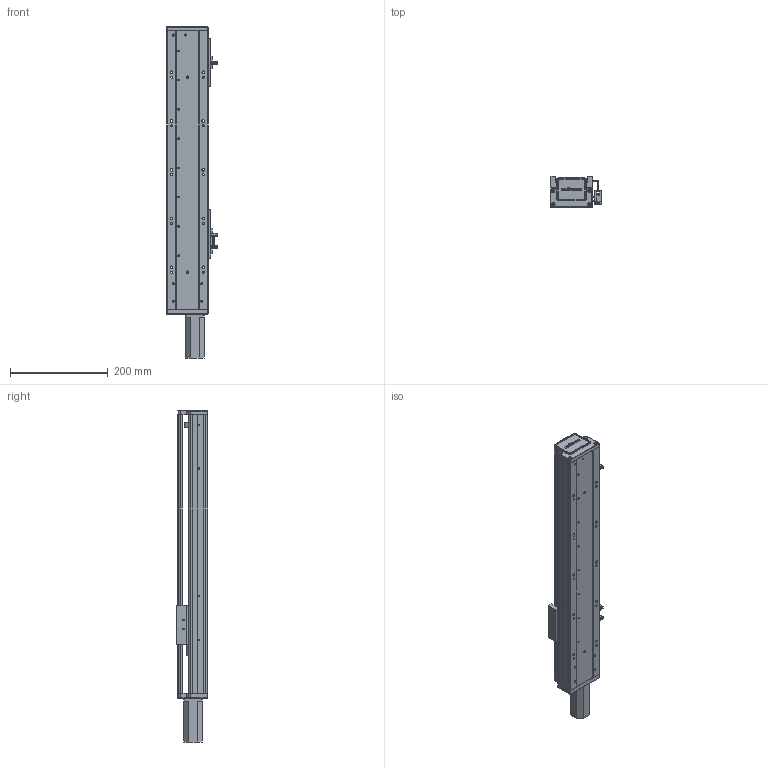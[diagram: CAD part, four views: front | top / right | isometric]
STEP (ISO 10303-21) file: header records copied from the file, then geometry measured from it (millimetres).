
FILE_DESCRIPTION (( 'STEP AP203' ), '1' );
FILE_NAME ('RY80-L1620-300-MK(100W).SLDASM_350.step', '2021-02-20T02:19:34', ( '' ), ( '' ), 'SwSTEP 2.0', 'SolidWorks 2012', '' );
FILE_SCHEMA (( 'CONFIG_CONTROL_DESIGN' ));
Length unit declared in the file: millimetre
Products named in the file (12): RY80-L1620-300-MK(100W).SLDASM_350; 侂狟100W; 滅袉蝶18-24; 覜茼ん672; 672嫖萇羲壽假蚾釱; RY80俋离覜茼え; 滅袉蝶18-10; RY80綴裔啣; RY80前盖板(100W电机)M3; RY80-300-MK倰第奻裔啣_350; RY80臏賑輸; RY80-300-MK倰第菁釱_350
Assembly tree (14 placements, depth 2):
  RY80-L1620-300-MK(100W).SLDASM_350
    RY80-300-MK倰第菁釱_350
    RY80臏賑輸
    RY80-300-MK倰第奻裔啣_350
    RY80前盖板(100W电机)M3
    RY80綴裔啣
    滅袉蝶18-10
    672嫖萇羲壽假蚾釱  x2
    覜茼ん672  x3
    RY80俋离覜茼え
    滅袉蝶18-24
    侂狟100W
Bounding box: 103.7 x 65 x 681 mm (x, y, z)
Volume: 1064811.1 mm3; surface area: 433638.4 mm2
Topology: 14 solids, 14 shells, 1513 faces, 4223 edges, 2757 vertices
Faces by surface type: plane 892, cylinder 516, cone 71, bspline 34
Entity records: 46602 total; most frequent: CARTESIAN_POINT 11949, ORIENTED_EDGE 7214, DIRECTION 6498, EDGE_CURVE 3607, VERTEX_POINT 2373, VECTOR 2294, LINE 2294, AXIS2_PLACEMENT_3D 2102
